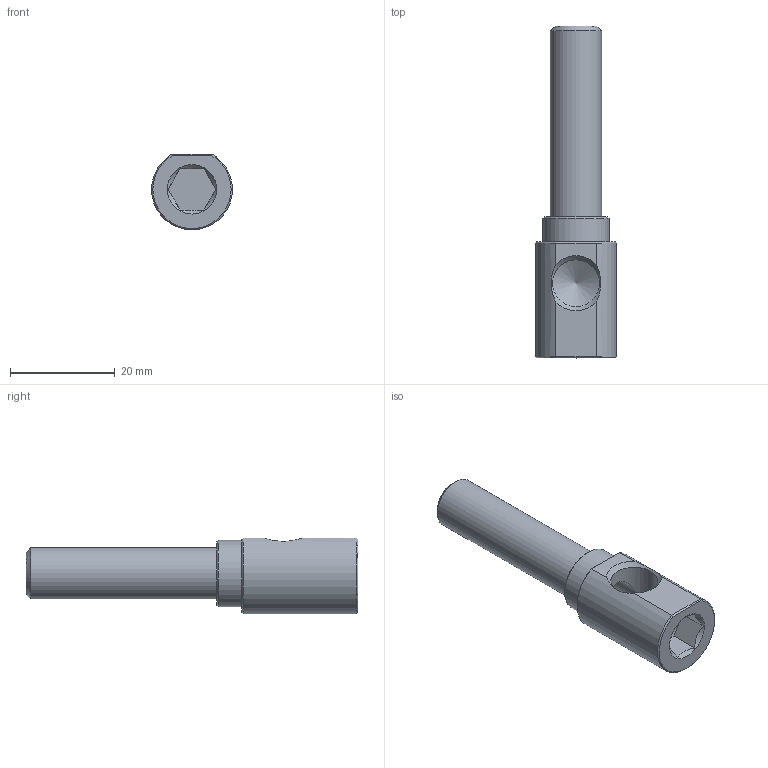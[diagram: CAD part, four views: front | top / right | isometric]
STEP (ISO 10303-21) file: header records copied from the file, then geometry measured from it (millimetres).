
FILE_DESCRIPTION(/* description */ (''),/* implementation_level */ '2;1');
FILE_NAME(/* name */ 'C:/Users/drich/Desktop/EKL18 X 2.5 v2.step',/* time_stamp */ '2019-11-18T14:39:28-06:00',/* author */ (''),/* organization */ (''),/* preprocessor_version */ 'ST-DEVELOPER v18',/* originating_system */ 'Autodesk Translation Framework v8.12.0.6',/* authorisation */ '');
FILE_SCHEMA (('AUTOMOTIVE_DESIGN { 1 0 10303 214 3 1 1 }'));
Length unit declared in the file: inch
Products named in the file (2): EKL18 X 2.5; EKL18 X 2-1/2
Assembly tree (1 placements, depth 2):
  EKL18 X 2.5
    EKL18 X 2-1/2
Bounding box: 15.49 x 63.5 x 14.48 mm (x, y, z)
Volume: 4805.4 mm3; surface area: 4076.6 mm2
Topology: 1 solids, 1 shells, 30 faces, 80 edges, 55 vertices
Faces by surface type: plane 16, cone 8, cylinder 6
Full cylindrical faces by diameter (mm): 6.35 x1, 9.004 x1, 9.398 x1, 9.794 x1, 12.7 x1
Entity records: 1047 total; most frequent: CARTESIAN_POINT 256, ORIENTED_EDGE 158, DIRECTION 151, EDGE_CURVE 79, AXIS2_PLACEMENT_3D 60, VERTEX_POINT 55, EDGE_LOOP 36, LINE 31
